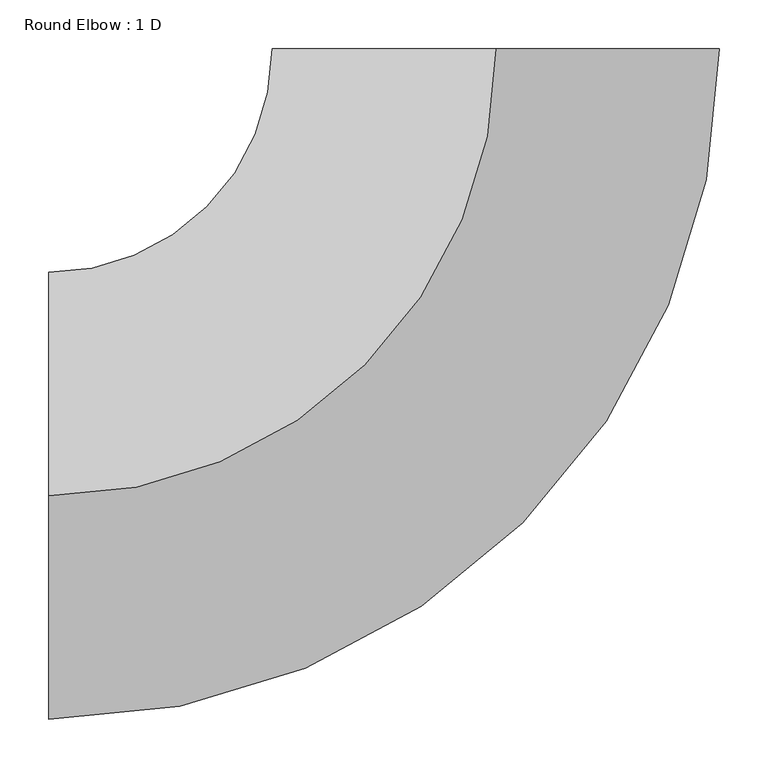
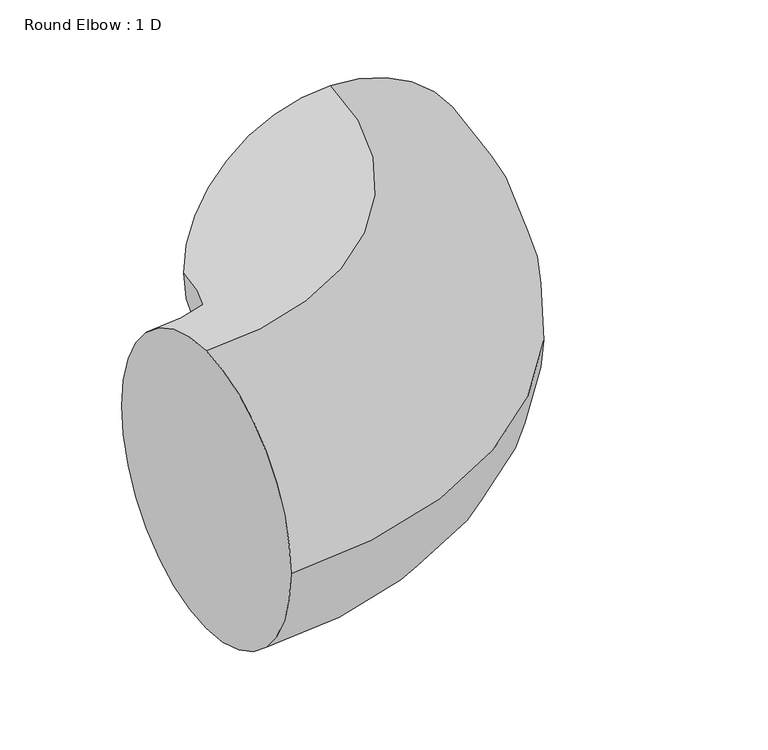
"""IFC4 building model written with IfcOpenShell, lengths in millimetres: duct fitting geometry, Round Elbow : 1 D."""

from ifc_helpers import new_model, si_unit, point, frame, origin, place, context, project, spatial, circle_curve, ellipse_curve, trimmed, source, transform, mapped, element, save
from ifc_brep_helpers import plane_surface, revolved_surface, advanced_brep


def round_elbow_1_d_f1b293c8(model_context):
    return source(origin(), model_context, "Body", "AdvancedBrep", [
        advanced_brep(
        [(-457.2, 0.0, 228.6), (-457.2, 228.6, 0.0), (-457.2, 0.0, -228.6), (-457.2, -228.6, 0.0), (0.0, 457.2, 228.6), (228.6, 457.2, 0.0), (0.0, 457.2, -228.6), (-228.6, 457.2, 0.0)],
        [
            (0, 1, circle_curve(frame((-457.2, 0.0, 0.0), z_axis=(-1.0, 0.0, 0.0), x_axis=(0.0, 1.0, 0.0)), 228.6)),
            (1, 2, circle_curve(frame((-457.2, 0.0, 0.0), z_axis=(-1.0, 0.0, 0.0), x_axis=(0.0, 1.0, 0.0)), 228.6)),
            (2, 3, circle_curve(frame((-457.2, 0.0, 0.0), z_axis=(-1.0, 0.0, 0.0), x_axis=(0.0, 1.0, 0.0)), 228.6)),
            (3, 0, circle_curve(frame((-457.2, 0.0, 0.0), z_axis=(-1.0, 0.0, 0.0), x_axis=(0.0, 1.0, 0.0)), 228.6)),
            (4, 5, circle_curve(frame((0.0, 457.2, 0.0), z_axis=(0.0, 1.0, 0.0), x_axis=(-1.0, 0.0, 0.0)), 228.6)),
            (5, 6, circle_curve(frame((0.0, 457.2, 0.0), z_axis=(0.0, 1.0, 0.0), x_axis=(-1.0, 0.0, 0.0)), 228.6)),
            (6, 7, circle_curve(frame((0.0, 457.2, 0.0), z_axis=(0.0, 1.0, 0.0), x_axis=(-1.0, 0.0, 0.0)), 228.6)),
            (7, 4, circle_curve(frame((0.0, 457.2, 0.0), z_axis=(0.0, 1.0, 0.0), x_axis=(-1.0, 0.0, 0.0)), 228.6)),
            (7, 1, circle_curve(frame((-457.2, 457.2, 0.0), z_axis=(0.0, 0.0, -1.0), x_axis=(0.0, -1.0, 0.0)), 228.6)),
            (0, 4, circle_curve(frame((-457.2, 457.2, 228.6), z_axis=(0.0, 0.0, 1.0), x_axis=(0.0, -1.0, 0.0)), 457.2)),
            (6, 2, circle_curve(frame((-457.2, 457.2, -228.6), z_axis=(0.0, 0.0, -1.0), x_axis=(0.0, -1.0, 0.0)), 457.2)),
            (5, 3, circle_curve(frame((-457.2, 457.2, 0.0), z_axis=(0.0, 0.0, -1.0), x_axis=(0.0, -1.0, 0.0)), 685.8)),
        ],
        [
            plane_surface(frame((-457.2, 0.0, 0.0), z_axis=(-1.0, 0.0, 0.0), x_axis=(0.0, 0.0, 1.0))),
            plane_surface(frame((0.0, 457.2, 0.0), z_axis=(0.0, 1.0, 0.0), x_axis=(0.0, 0.0, 1.0))),
            revolved_surface(trimmed(ellipse_curve(frame((-457.2, 0.0, 0.0), z_axis=(-1.0, 0.0, 0.0), x_axis=(0.0, 1.0, 0.0)), 228.6, 228.6), [point((-457.2, 0.0, 228.6))], [point((-457.2, 228.6, 0.0))], True, "CARTESIAN"), (-457.2, 457.2, 0.0), (0.0, 0.0, 1.0)),
            revolved_surface(trimmed(ellipse_curve(frame((-457.2, 0.0, 0.0), z_axis=(-1.0, 0.0, 0.0), x_axis=(0.0, 1.0, 0.0)), 228.6, 228.6), [point((-457.2, 228.6, 0.0))], [point((-457.2, 0.0, -228.6))], True, "CARTESIAN"), (-457.2, 457.2, 0.0), (0.0, 0.0, 1.0)),
            revolved_surface(trimmed(ellipse_curve(frame((-457.2, 0.0, 0.0), z_axis=(-1.0, 0.0, 0.0), x_axis=(0.0, 1.0, 0.0)), 228.6, 228.6), [point((-457.2, 0.0, -228.6))], [point((-457.2, -228.6, 0.0))], True, "CARTESIAN"), (-457.2, 457.2, 0.0), (0.0, 0.0, 1.0)),
            revolved_surface(trimmed(ellipse_curve(frame((-457.2, 0.0, 0.0), z_axis=(-1.0, 0.0, 0.0), x_axis=(0.0, 1.0, 0.0)), 228.6, 228.6), [point((-457.2, -228.6, 0.0))], [point((-457.2, 0.0, 228.6))], True, "CARTESIAN"), (-457.2, 457.2, 0.0), (0.0, 0.0, 1.0)),
        ],
        [
            (0, [[1, 2, 3, 4]]),
            (1, [[5, 6, 7, 8]]),
            (2, [[9, -1, 10, -8]]),
            (3, [[11, -2, -9, -7]]),
            (4, [[12, -3, -11, -6]]),
            (5, [[-10, -4, -12, -5]]),
        ],
    ),
    ])


if __name__ == "__main__":
    model = new_model("IFC4")
    model_context = context("Model", 3, world=origin())
    ifc_project = project(units=[si_unit("LENGTHUNIT", "METRE", prefix="MILLI")], contexts=[model_context])
    site = spatial("IfcSite", under=ifc_project)
    building = spatial("IfcBuilding", under=site)
    placement = place(None, origin())
    round_elbow_1_d_shape = round_elbow_1_d_f1b293c8(model_context)
    element("IfcDuctFitting", 1, ObjectType="Round Elbow : 1 D", at=placement, inside=building, context=model_context, shape_type="MappedRepresentation", body=[
        mapped(round_elbow_1_d_shape, transform((0.0, 0.0, 0.0), x_axis=(1.0, 0.0, 0.0), y_axis=(0.0, 1.0, 0.0), z_axis=(0.0, 0.0, 1.0))),
    ])
    save(model, "model.ifc")
